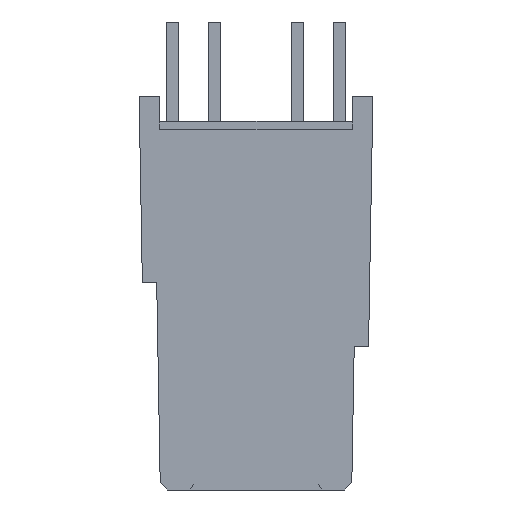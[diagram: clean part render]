
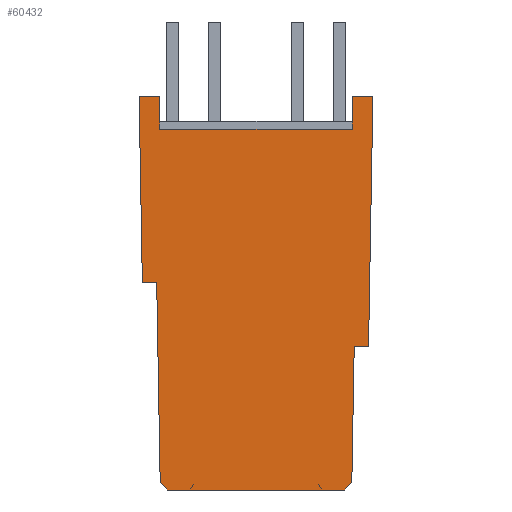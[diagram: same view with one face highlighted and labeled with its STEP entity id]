
A CAD part, front view. The second image highlights one B-rep face of the part: STEP entity #60432.
In plain terms, the highlighted planar face has unit normal (0, -1, 0).
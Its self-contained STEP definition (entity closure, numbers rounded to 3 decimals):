
#8097=DIRECTION('',(1.,0.,0.));
#8098=VECTOR('',#8097,0.65);
#8099=CARTESIAN_POINT('',(-34.669,-21.542,
-7.276));
#8100=LINE('',#8099,#8098);
#8105=DIRECTION('',(1.,0.,0.));
#8106=VECTOR('',#8105,5.511);
#8107=CARTESIAN_POINT('',(-40.43,-21.542,
-19.584));
#8108=LINE('',#8107,#8106);
#8109=DIRECTION('',(0.707,0.,-0.707));
#8110=VECTOR('',#8109,0.34);
#8111=CARTESIAN_POINT('',(-40.671,-21.542,
-19.344));
#8112=LINE('',#8111,#8110);
#8113=DIRECTION('',(0.017,0.,-1.));
#8114=VECTOR('',#8113,6.26);
#8115=CARTESIAN_POINT('',(-40.78,-21.542,
-13.084));
#8116=LINE('',#8115,#8114);
#8117=DIRECTION('',(0.017,0.,-1.));
#8118=VECTOR('',#8117,5.809);
#8119=CARTESIAN_POINT('',(-41.33,-21.542,
-7.276));
#8120=LINE('',#8119,#8118);
#8121=DIRECTION('',(-1.,0.,0.));
#8122=VECTOR('',#8121,0.65);
#8123=CARTESIAN_POINT('',(-40.68,-21.542,
-7.276));
#8124=LINE('',#8123,#8122);
#8125=DIRECTION('',(0.,0.,1.));
#8126=VECTOR('',#8125,1.023);
#8127=CARTESIAN_POINT('',(-40.68,-21.542,
-8.299));
#8128=LINE('',#8127,#8126);
#8129=DIRECTION('',(0.017,0.,1.));
#8130=VECTOR('',#8129,7.809);
#8131=CARTESIAN_POINT('',(-34.155,-21.542,
-15.084));
#8132=LINE('',#8131,#8130);
#8133=DIRECTION('',(1.,0.,0.));
#8134=VECTOR('',#8133,0.449);
#8135=CARTESIAN_POINT('',(-34.604,-21.542,
-15.084));
#8136=LINE('',#8135,#8134);
#8137=DIRECTION('',(0.017,0.,1.));
#8138=VECTOR('',#8137,4.26);
#8139=CARTESIAN_POINT('',(-34.678,-21.542,
-19.344));
#8140=LINE('',#8139,#8138);
#8141=DIRECTION('',(0.707,0.,0.707));
#8142=VECTOR('',#8141,0.34);
#8143=CARTESIAN_POINT('',(-34.919,-21.542,
-19.584));
#8144=LINE('',#8143,#8142);
#12222=DIRECTION('',(-1.,0.,0.));
#12223=VECTOR('',#12222,0.449);
#12224=CARTESIAN_POINT('',(-40.78,-21.542,
-13.084));
#12225=LINE('',#12224,#12223);
#13829=DIRECTION('',(0.,0.,1.));
#13830=VECTOR('',#13829,1.023);
#13831=CARTESIAN_POINT('',(-34.669,-21.542,
-8.299));
#13832=LINE('',#13831,#13830);
#13853=DIRECTION('',(1.,0.,0.));
#13854=VECTOR('',#13853,6.011);
#13855=CARTESIAN_POINT('',(-40.68,-21.542,
-8.299));
#13856=LINE('',#13855,#13854);
#38403=CARTESIAN_POINT('',(-34.155,-21.542,
-15.084));
#38404=VERTEX_POINT('',#38403);
#38405=CARTESIAN_POINT('',(-34.019,-21.542,
-7.276));
#38406=VERTEX_POINT('',#38405);
#39821=CARTESIAN_POINT('',(-40.671,-21.542,
-19.344));
#39822=VERTEX_POINT('',#39821);
#39823=CARTESIAN_POINT('',(-40.43,-21.542,
-19.584));
#39824=VERTEX_POINT('',#39823);
#40100=CARTESIAN_POINT('',(-40.68,-21.542,
-7.276));
#40101=VERTEX_POINT('',#40100);
#40102=CARTESIAN_POINT('',(-41.33,-21.542,
-7.276));
#40103=VERTEX_POINT('',#40102);
#40140=CARTESIAN_POINT('',(-34.919,-21.542,
-19.584));
#40141=VERTEX_POINT('',#40140);
#41770=CARTESIAN_POINT('',(-40.78,-21.542,
-13.084));
#41771=VERTEX_POINT('',#41770);
#41772=CARTESIAN_POINT('',(-41.229,-21.542,
-13.084));
#41773=VERTEX_POINT('',#41772);
#41774=CARTESIAN_POINT('',(-40.68,-21.542,
-8.299));
#41775=VERTEX_POINT('',#41774);
#41776=CARTESIAN_POINT('',(-34.669,-21.542,
-8.299));
#41777=VERTEX_POINT('',#41776);
#41778=CARTESIAN_POINT('',(-34.669,-21.542,
-7.276));
#41779=VERTEX_POINT('',#41778);
#41780=CARTESIAN_POINT('',(-34.604,-21.542,
-15.084));
#41781=VERTEX_POINT('',#41780);
#41782=CARTESIAN_POINT('',(-34.678,-21.542,
-19.344));
#41783=VERTEX_POINT('',#41782);
#60403=CARTESIAN_POINT('',(-40.039,-21.542,
-12.799));
#60404=DIRECTION('',(0.,1.,0.));
#60405=DIRECTION('',(1.,0.,0.));
#60406=AXIS2_PLACEMENT_3D('',#60403,#60404,#60405);
#60407=PLANE('',#60406);
#60408=ORIENTED_EDGE('',*,*,#51614,.F.);
#60410=ORIENTED_EDGE('',*,*,#60409,.F.);
#60412=ORIENTED_EDGE('',*,*,#60411,.F.);
#60414=ORIENTED_EDGE('',*,*,#60413,.T.);
#60416=ORIENTED_EDGE('',*,*,#60415,.F.);
#60418=ORIENTED_EDGE('',*,*,#60417,.F.);
#60420=ORIENTED_EDGE('',*,*,#60419,.F.);
#60422=ORIENTED_EDGE('',*,*,#60421,.T.);
#60424=ORIENTED_EDGE('',*,*,#60423,.T.);
#60425=ORIENTED_EDGE('',*,*,#60396,.T.);
#60426=ORIENTED_EDGE('',*,*,#54031,.F.);
#60427=ORIENTED_EDGE('',*,*,#53680,.F.);
#60428=ORIENTED_EDGE('',*,*,#53667,.F.);
#60429=ORIENTED_EDGE('',*,*,#53652,.F.);
#60430=EDGE_LOOP('',(#60408,#60410,#60412,#60414,#60416,#60418,#60420,#60422,
#60424,#60425,#60426,#60427,#60428,#60429));
#60431=FACE_OUTER_BOUND('',#60430,.F.);
#60432=ADVANCED_FACE('',(#60431),#60407,.F.);
#51614=EDGE_CURVE('',#39824,#40141,#8108,.T.);
#53652=EDGE_CURVE('',#40141,#41783,#8144,.T.);
#53667=EDGE_CURVE('',#41783,#41781,#8140,.T.);
#53680=EDGE_CURVE('',#41781,#38404,#8136,.T.);
#54031=EDGE_CURVE('',#38404,#38406,#8132,.T.);
#60396=EDGE_CURVE('',#41779,#38406,#8100,.T.);
#60409=EDGE_CURVE('',#39822,#39824,#8112,.T.);
#60411=EDGE_CURVE('',#41771,#39822,#8116,.T.);
#60413=EDGE_CURVE('',#41771,#41773,#12225,.T.);
#60415=EDGE_CURVE('',#40103,#41773,#8120,.T.);
#60417=EDGE_CURVE('',#40101,#40103,#8124,.T.);
#60419=EDGE_CURVE('',#41775,#40101,#8128,.T.);
#60421=EDGE_CURVE('',#41775,#41777,#13856,.T.);
#60423=EDGE_CURVE('',#41777,#41779,#13832,.T.);
